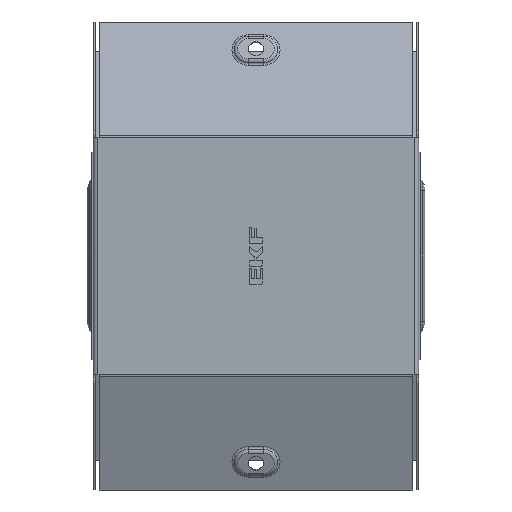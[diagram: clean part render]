
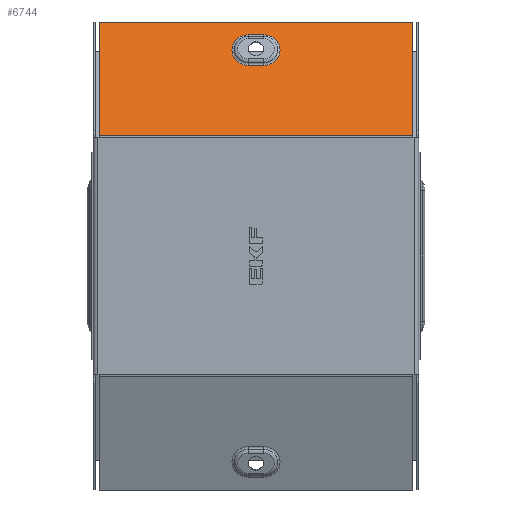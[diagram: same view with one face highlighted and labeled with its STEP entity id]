
A CAD part, front view. The second image highlights one B-rep face of the part: STEP entity #6744.
In plain terms, the highlighted planar face has unit normal (0, -0.924, 0.383).
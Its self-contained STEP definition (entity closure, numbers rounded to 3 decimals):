
#28 = CIRCLE ( 'NONE', #11273, 7.598 ) ;
#80 = CARTESIAN_POINT ( 'NONE',  ( 3.5, -19.287, 94.95 ) ) ;
#132 = DIRECTION ( 'NONE',  ( 0., 0.924, -0.383 ) ) ;
#352 = LINE ( 'NONE', #5336, #6691 ) ;
#353 = DIRECTION ( 'NONE',  ( 0., 0.924, -0.383 ) ) ;
#399 = EDGE_CURVE ( 'NONE', #11647, #956, #2370, .T. ) ;
#778 = CARTESIAN_POINT ( 'NONE',  ( 73.2, -13.93, 107.885 ) ) ;
#956 = VERTEX_POINT ( 'NONE', #8568 ) ;
#1070 = CARTESIAN_POINT ( 'NONE',  ( -72.299, -13.93, 107.885 ) ) ;
#1309 = DIRECTION ( 'NONE',  ( 0., 0.383, 0.924 ) ) ;
#1480 = CARTESIAN_POINT ( 'NONE',  ( 3.5, -22.195, 87.931 ) ) ;
#1954 = CARTESIAN_POINT ( 'NONE',  ( 73.2, -35.8, 55.085 ) ) ;
#2037 = EDGE_CURVE ( 'NONE', #8818, #11647, #10154, .T. ) ;
#2370 = LINE ( 'NONE', #3237, #10356 ) ;
#2389 = DIRECTION ( 'NONE',  ( 0., 0.383, 0.924 ) ) ;
#2565 = CARTESIAN_POINT ( 'NONE',  ( -3.5, -16.38, 101.97 ) ) ;
#3221 = EDGE_CURVE ( 'NONE', #12486, #8818, #11614, .T. ) ;
#3237 = CARTESIAN_POINT ( 'NONE',  ( 3.5, -16.38, 101.97 ) ) ;
#3364 = ORIENTED_EDGE ( 'NONE', *, *, #3221, .T. ) ;
#3492 = VECTOR ( 'NONE', #7448, 1000. ) ;
#3693 = AXIS2_PLACEMENT_3D ( 'NONE', #1954, #3916, #9214 ) ;
#3911 = CARTESIAN_POINT ( 'NONE',  ( -72.299, -35.8, 55.085 ) ) ;
#3916 = DIRECTION ( 'NONE',  ( 0., 0.924, -0.383 ) ) ;
#4038 = ORIENTED_EDGE ( 'NONE', *, *, #2037, .T. ) ;
#4079 = CARTESIAN_POINT ( 'NONE',  ( 3.5, -22.195, 87.931 ) ) ;
#4316 = CARTESIAN_POINT ( 'NONE',  ( -3.5, -22.195, 87.931 ) ) ;
#4327 = DIRECTION ( 'NONE',  ( -1., 0., 0. ) ) ;
#4349 = CARTESIAN_POINT ( 'NONE',  ( -3.5, -19.287, 94.95 ) ) ;
#4550 = CARTESIAN_POINT ( 'NONE',  ( 72.299, -35.864, 54.931 ) ) ;
#4680 = EDGE_CURVE ( 'NONE', #6654, #5647, #10358, .T. ) ;
#4780 = ORIENTED_EDGE ( 'NONE', *, *, #8011, .T. ) ;
#4821 = ORIENTED_EDGE ( 'NONE', *, *, #12576, .T. ) ;
#4865 = VECTOR ( 'NONE', #1309, 1000. ) ;
#5086 = VERTEX_POINT ( 'NONE', #10260 ) ;
#5336 = CARTESIAN_POINT ( 'NONE',  ( 73.2, -35.663, 55.416 ) ) ;
#5359 = LINE ( 'NONE', #4550, #4865 ) ;
#5647 = VERTEX_POINT ( 'NONE', #11634 ) ;
#5757 = VECTOR ( 'NONE', #10876, 1000. ) ;
#5917 = EDGE_CURVE ( 'NONE', #5086, #6654, #11449, .T. ) ;
#6036 = CARTESIAN_POINT ( 'NONE',  ( 72.299, -35.663, 55.416 ) ) ;
#6654 = VERTEX_POINT ( 'NONE', #1070 ) ;
#6663 = EDGE_LOOP ( 'NONE', ( #10641, #4780, #3364, #4038 ) ) ;
#6691 = VECTOR ( 'NONE', #4327, 1000. ) ;
#6744 = ADVANCED_FACE ( 'NONE', ( #13161, #7372 ), #13357, .F. ) ;
#7071 = VERTEX_POINT ( 'NONE', #6036 ) ;
#7270 = VECTOR ( 'NONE', #10247, 1000. ) ;
#7372 = FACE_OUTER_BOUND ( 'NONE', #11477, .T. ) ;
#7448 = DIRECTION ( 'NONE',  ( -1., 0., 0. ) ) ;
#7486 = DIRECTION ( 'NONE',  ( 1., 0., 0. ) ) ;
#8011 = EDGE_CURVE ( 'NONE', #956, #12486, #28, .T. ) ;
#8418 = DIRECTION ( 'NONE',  ( 0., 0.383, 0.924 ) ) ;
#8568 = CARTESIAN_POINT ( 'NONE',  ( 3.5, -16.38, 101.97 ) ) ;
#8611 = ORIENTED_EDGE ( 'NONE', *, *, #4680, .T. ) ;
#8818 = VERTEX_POINT ( 'NONE', #4316 ) ;
#9214 = DIRECTION ( 'NONE',  ( 0., 0.383, 0.924 ) ) ;
#10154 = CIRCLE ( 'NONE', #12373, 7.598 ) ;
#10247 = DIRECTION ( 'NONE',  ( 0., -0.383, -0.924 ) ) ;
#10260 = CARTESIAN_POINT ( 'NONE',  ( 72.299, -13.93, 107.885 ) ) ;
#10356 = VECTOR ( 'NONE', #7486, 1000. ) ;
#10358 = LINE ( 'NONE', #3911, #7270 ) ;
#10641 = ORIENTED_EDGE ( 'NONE', *, *, #399, .T. ) ;
#10876 = DIRECTION ( 'NONE',  ( -1., 0., 0. ) ) ;
#11273 = AXIS2_PLACEMENT_3D ( 'NONE', #80, #132, #8418 ) ;
#11449 = LINE ( 'NONE', #778, #5757 ) ;
#11477 = EDGE_LOOP ( 'NONE', ( #8611, #12196, #4821, #13391 ) ) ;
#11614 = LINE ( 'NONE', #1480, #3492 ) ;
#11634 = CARTESIAN_POINT ( 'NONE',  ( -72.299, -35.663, 55.416 ) ) ;
#11647 = VERTEX_POINT ( 'NONE', #2565 ) ;
#12196 = ORIENTED_EDGE ( 'NONE', *, *, #13317, .F. ) ;
#12373 = AXIS2_PLACEMENT_3D ( 'NONE', #4349, #353, #2389 ) ;
#12486 = VERTEX_POINT ( 'NONE', #4079 ) ;
#12576 = EDGE_CURVE ( 'NONE', #7071, #5086, #5359, .T. ) ;
#13161 = FACE_BOUND ( 'NONE', #6663, .T. ) ;
#13317 = EDGE_CURVE ( 'NONE', #7071, #5647, #352, .T. ) ;
#13357 = PLANE ( 'NONE',  #3693 ) ;
#13391 = ORIENTED_EDGE ( 'NONE', *, *, #5917, .T. ) ;
